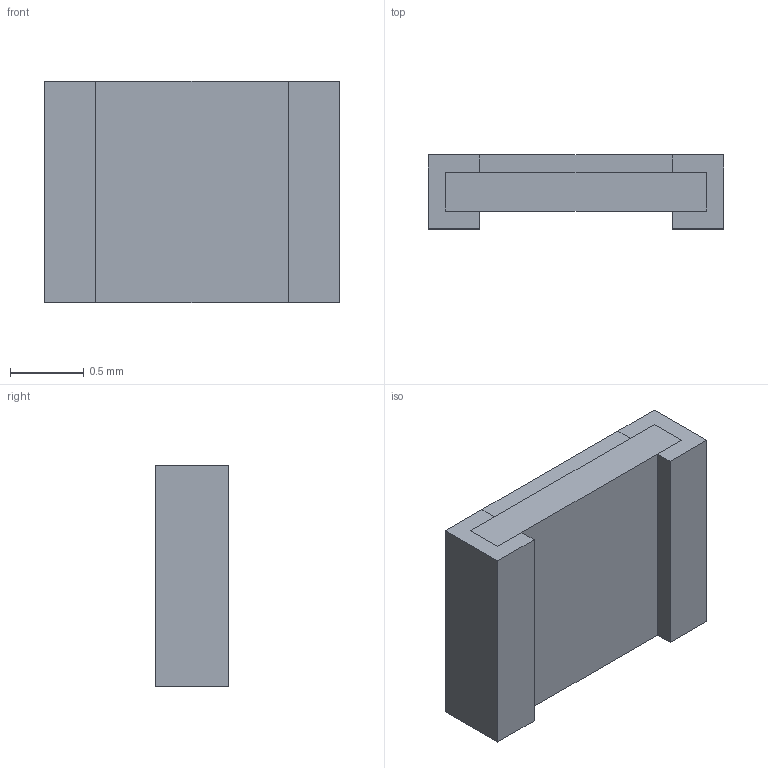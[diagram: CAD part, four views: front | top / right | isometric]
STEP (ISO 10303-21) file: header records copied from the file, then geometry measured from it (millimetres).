
FILE_DESCRIPTION(('FreeCAD Model'),'2;1');
FILE_NAME('Open CASCADE Shape Model','2022-02-08T17:23:10',('Author'),( ''),'Open CASCADE STEP processor 7.5','FreeCAD','Unknown');
FILE_SCHEMA(('AUTOMOTIVE_DESIGN { 1 0 10303 214 1 1 1 1 }'));
Length unit declared in the file: millimetre
Products named in the file (1): Pad002
Bounding box: 2 x 0.5 x 1.5 mm (x, y, z)
Volume: 1.3 mm3; surface area: 9.5 mm2
Topology: 1 solids, 1 shells, 18 faces, 48 edges, 32 vertices
Faces by surface type: plane 18
Entity records: 1320 total; most frequent: CARTESIAN_POINT 195, DIRECTION 182, LINE 144, VECTOR 144, ORIENTED_EDGE 96, PCURVE 96, DEFINITIONAL_REPRESENTATION 96, EDGE_CURVE 48
